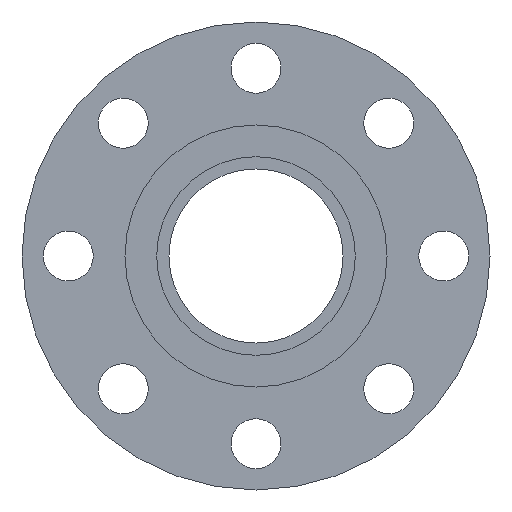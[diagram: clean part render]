
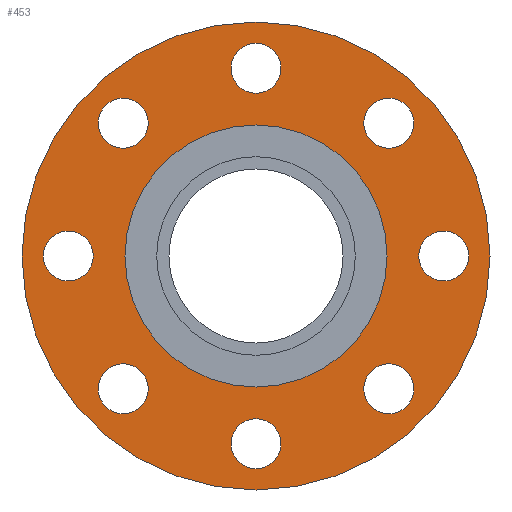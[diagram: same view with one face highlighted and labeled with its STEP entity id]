
A CAD part, left-side view. The second image highlights one B-rep face of the part: STEP entity #453.
In plain terms, the highlighted planar face has unit normal (-1, 0, 0).
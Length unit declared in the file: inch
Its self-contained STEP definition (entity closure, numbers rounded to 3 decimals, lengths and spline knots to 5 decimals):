
#14=FACE_BOUND('',#76,.T.);
#15=FACE_BOUND('',#77,.T.);
#16=FACE_BOUND('',#78,.T.);
#17=FACE_BOUND('',#79,.T.);
#18=FACE_BOUND('',#80,.T.);
#19=FACE_BOUND('',#81,.T.);
#20=FACE_BOUND('',#82,.T.);
#21=FACE_BOUND('',#83,.T.);
#22=FACE_BOUND('',#84,.T.);
#37=PLANE('',#515);
#53=FACE_OUTER_BOUND('',#75,.T.);
#75=EDGE_LOOP('',(#326,#327));
#76=EDGE_LOOP('',(#328));
#77=EDGE_LOOP('',(#329));
#78=EDGE_LOOP('',(#330));
#79=EDGE_LOOP('',(#331));
#80=EDGE_LOOP('',(#332));
#81=EDGE_LOOP('',(#333));
#82=EDGE_LOOP('',(#334));
#83=EDGE_LOOP('',(#335));
#84=EDGE_LOOP('',(#336,#337));
#142=CIRCLE('',#488,0.44);
#144=CIRCLE('',#491,0.44);
#146=CIRCLE('',#494,0.44);
#148=CIRCLE('',#497,0.44);
#150=CIRCLE('',#500,0.44);
#152=CIRCLE('',#503,0.44);
#154=CIRCLE('',#506,0.44);
#156=CIRCLE('',#509,0.44);
#157=CIRCLE('',#511,4.125);
#158=CIRCLE('',#512,4.125);
#161=CIRCLE('',#516,2.31);
#162=CIRCLE('',#517,2.31);
#186=VERTEX_POINT('',#705);
#188=VERTEX_POINT('',#711);
#190=VERTEX_POINT('',#717);
#192=VERTEX_POINT('',#723);
#194=VERTEX_POINT('',#729);
#196=VERTEX_POINT('',#735);
#198=VERTEX_POINT('',#741);
#200=VERTEX_POINT('',#747);
#201=VERTEX_POINT('',#751);
#202=VERTEX_POINT('',#752);
#205=VERTEX_POINT('',#761);
#206=VERTEX_POINT('',#762);
#231=EDGE_CURVE('',#186,#186,#142,.T.);
#234=EDGE_CURVE('',#188,#188,#144,.T.);
#237=EDGE_CURVE('',#190,#190,#146,.T.);
#240=EDGE_CURVE('',#192,#192,#148,.T.);
#243=EDGE_CURVE('',#194,#194,#150,.T.);
#246=EDGE_CURVE('',#196,#196,#152,.T.);
#249=EDGE_CURVE('',#198,#198,#154,.T.);
#252=EDGE_CURVE('',#200,#200,#156,.T.);
#253=EDGE_CURVE('',#201,#202,#157,.T.);
#254=EDGE_CURVE('',#202,#201,#158,.T.);
#258=EDGE_CURVE('',#205,#206,#161,.T.);
#259=EDGE_CURVE('',#206,#205,#162,.T.);
#326=ORIENTED_EDGE('',*,*,#253,.T.);
#327=ORIENTED_EDGE('',*,*,#254,.T.);
#328=ORIENTED_EDGE('',*,*,#231,.T.);
#329=ORIENTED_EDGE('',*,*,#234,.T.);
#330=ORIENTED_EDGE('',*,*,#237,.T.);
#331=ORIENTED_EDGE('',*,*,#240,.T.);
#332=ORIENTED_EDGE('',*,*,#243,.T.);
#333=ORIENTED_EDGE('',*,*,#246,.T.);
#334=ORIENTED_EDGE('',*,*,#249,.T.);
#335=ORIENTED_EDGE('',*,*,#252,.T.);
#336=ORIENTED_EDGE('',*,*,#258,.F.);
#337=ORIENTED_EDGE('',*,*,#259,.F.);
#453=ADVANCED_FACE('',(#53,#14,#15,#16,#17,#18,#19,#20,#21,#22),#37,.T.);
#488=AXIS2_PLACEMENT_3D('',#707,#559,#560);
#491=AXIS2_PLACEMENT_3D('',#713,#566,#567);
#494=AXIS2_PLACEMENT_3D('',#719,#573,#574);
#497=AXIS2_PLACEMENT_3D('',#725,#580,#581);
#500=AXIS2_PLACEMENT_3D('',#731,#587,#588);
#503=AXIS2_PLACEMENT_3D('',#737,#594,#595);
#506=AXIS2_PLACEMENT_3D('',#743,#601,#602);
#509=AXIS2_PLACEMENT_3D('',#749,#608,#609);
#511=AXIS2_PLACEMENT_3D('',#753,#612,#613);
#512=AXIS2_PLACEMENT_3D('',#754,#614,#615);
#515=AXIS2_PLACEMENT_3D('',#760,#621,#622);
#516=AXIS2_PLACEMENT_3D('',#763,#623,#624);
#517=AXIS2_PLACEMENT_3D('',#764,#625,#626);
#559=DIRECTION('center_axis',(1.,0.,0.));
#560=DIRECTION('ref_axis',(0.,-0.707,0.707));
#566=DIRECTION('center_axis',(1.,0.,0.));
#567=DIRECTION('ref_axis',(0.,-1.,0.));
#573=DIRECTION('center_axis',(1.,0.,0.));
#574=DIRECTION('ref_axis',(0.,-0.707,-0.707));
#580=DIRECTION('center_axis',(1.,0.,0.));
#581=DIRECTION('ref_axis',(0.,0.,-1.));
#587=DIRECTION('center_axis',(1.,0.,0.));
#588=DIRECTION('ref_axis',(0.,0.707,-0.707));
#594=DIRECTION('center_axis',(1.,0.,0.));
#595=DIRECTION('ref_axis',(0.,1.,0.));
#601=DIRECTION('center_axis',(1.,0.,0.));
#602=DIRECTION('ref_axis',(0.,0.707,0.707));
#608=DIRECTION('center_axis',(1.,0.,0.));
#609=DIRECTION('ref_axis',(0.,0.,1.));
#612=DIRECTION('center_axis',(-1.,0.,0.));
#613=DIRECTION('ref_axis',(0.,0.,1.));
#614=DIRECTION('center_axis',(-1.,0.,0.));
#615=DIRECTION('ref_axis',(0.,0.,1.));
#621=DIRECTION('center_axis',(-1.,0.,0.));
#622=DIRECTION('ref_axis',(0.,0.,1.));
#623=DIRECTION('center_axis',(-1.,0.,0.));
#624=DIRECTION('ref_axis',(0.,0.,1.));
#625=DIRECTION('center_axis',(-1.,0.,0.));
#626=DIRECTION('ref_axis',(0.,0.,1.));
#705=CARTESIAN_POINT('',(-1.12,2.65165,-2.65165));
#707=CARTESIAN_POINT('Origin',(-1.12,2.34052,-2.34052));
#711=CARTESIAN_POINT('',(-1.12,3.75,0.));
#713=CARTESIAN_POINT('Origin',(-1.12,3.31,0.));
#717=CARTESIAN_POINT('',(-1.12,2.65165,2.65165));
#719=CARTESIAN_POINT('Origin',(-1.12,2.34052,2.34052));
#723=CARTESIAN_POINT('',(-1.12,0.,3.75));
#725=CARTESIAN_POINT('Origin',(-1.12,0.,3.31));
#729=CARTESIAN_POINT('',(-1.12,-2.65165,2.65165));
#731=CARTESIAN_POINT('Origin',(-1.12,-2.34052,2.34052));
#735=CARTESIAN_POINT('',(-1.12,-3.75,0.));
#737=CARTESIAN_POINT('Origin',(-1.12,-3.31,0.));
#741=CARTESIAN_POINT('',(-1.12,-2.65165,-2.65165));
#743=CARTESIAN_POINT('Origin',(-1.12,-2.34052,-2.34052));
#747=CARTESIAN_POINT('',(-1.12,0.,-3.75));
#749=CARTESIAN_POINT('Origin',(-1.12,0.,-3.31));
#751=CARTESIAN_POINT('',(-1.12,0.,4.125));
#752=CARTESIAN_POINT('',(-1.12,0.,-4.125));
#753=CARTESIAN_POINT('Origin',(-1.12,0.,0.));
#754=CARTESIAN_POINT('Origin',(-1.12,0.,0.));
#760=CARTESIAN_POINT('Origin',(-1.12,0.,3.2175));
#761=CARTESIAN_POINT('',(-1.12,0.,2.31));
#762=CARTESIAN_POINT('',(-1.12,0.,-2.31));
#763=CARTESIAN_POINT('Origin',(-1.12,0.,0.));
#764=CARTESIAN_POINT('Origin',(-1.12,0.,0.));
